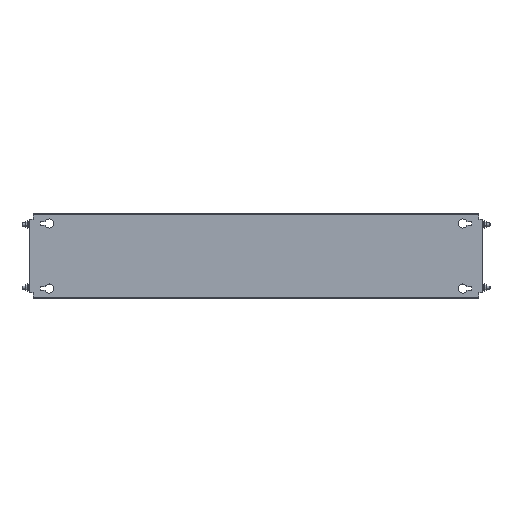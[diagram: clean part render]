
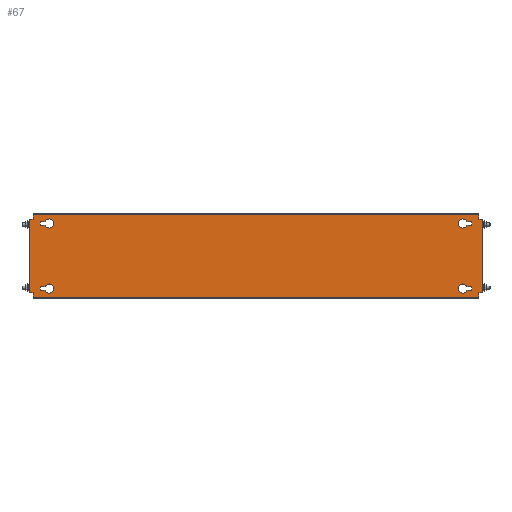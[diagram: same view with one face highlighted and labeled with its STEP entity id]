
A CAD part, top view. The second image highlights one B-rep face of the part: STEP entity #67.
In plain terms, the highlighted planar face has unit normal (0, 0, 1).
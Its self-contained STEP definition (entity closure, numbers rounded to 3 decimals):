
#67 = ADVANCED_FACE('',(#68,#103,#138,#300,#335),#370,.T.);
#68 = FACE_BOUND('',#69,.T.);
#69 = EDGE_LOOP('',(#70,#80,#88,#96));
#70 = ORIENTED_EDGE('',*,*,#71,.T.);
#71 = EDGE_CURVE('',#72,#74,#76,.T.);
#72 = VERTEX_POINT('',#73);
#73 = CARTESIAN_POINT('',(418.393,67.75,2.));
#74 = VERTEX_POINT('',#75);
#75 = CARTESIAN_POINT('',(428.,67.75,2.));
#76 = LINE('',#77,#78);
#77 = CARTESIAN_POINT('',(427.,67.75,2.));
#78 = VECTOR('',#79,1.);
#79 = DIRECTION('',(1.,0.,0.));
#80 = ORIENTED_EDGE('',*,*,#81,.T.);
#81 = EDGE_CURVE('',#74,#82,#84,.T.);
#82 = VERTEX_POINT('',#83);
#83 = CARTESIAN_POINT('',(428.,61.25,2.));
#84 = LINE('',#85,#86);
#85 = CARTESIAN_POINT('',(428.,67.75,2.));
#86 = VECTOR('',#87,1.);
#87 = DIRECTION('',(0.,-1.,0.));
#88 = ORIENTED_EDGE('',*,*,#89,.T.);
#89 = EDGE_CURVE('',#82,#90,#92,.T.);
#90 = VERTEX_POINT('',#91);
#91 = CARTESIAN_POINT('',(418.393,61.25,2.));
#92 = LINE('',#93,#94);
#93 = CARTESIAN_POINT('',(427.,61.25,2.));
#94 = VECTOR('',#95,1.);
#95 = DIRECTION('',(-1.,0.,0.));
#96 = ORIENTED_EDGE('',*,*,#97,.T.);
#97 = EDGE_CURVE('',#90,#72,#98,.T.);
#98 = CIRCLE('',#99,9.);
#99 = AXIS2_PLACEMENT_3D('',#100,#101,#102);
#100 = CARTESIAN_POINT('',(410.,64.5,2.));
#101 = DIRECTION('',(0.,0.,-1.));
#102 = DIRECTION('',(1.,0.,0.));
#103 = FACE_BOUND('',#104,.T.);
#104 = EDGE_LOOP('',(#105,#115,#123,#131));
#105 = ORIENTED_EDGE('',*,*,#106,.T.);
#106 = EDGE_CURVE('',#107,#109,#111,.T.);
#107 = VERTEX_POINT('',#108);
#108 = CARTESIAN_POINT('',(-418.393,-67.75,2.));
#109 = VERTEX_POINT('',#110);
#110 = CARTESIAN_POINT('',(-428.,-67.75,2.));
#111 = LINE('',#112,#113);
#112 = CARTESIAN_POINT('',(-427.,-67.75,2.));
#113 = VECTOR('',#114,1.);
#114 = DIRECTION('',(-1.,0.,0.));
#115 = ORIENTED_EDGE('',*,*,#116,.T.);
#116 = EDGE_CURVE('',#109,#117,#119,.T.);
#117 = VERTEX_POINT('',#118);
#118 = CARTESIAN_POINT('',(-428.,-61.25,2.));
#119 = LINE('',#120,#121);
#120 = CARTESIAN_POINT('',(-428.,-67.75,2.));
#121 = VECTOR('',#122,1.);
#122 = DIRECTION('',(0.,1.,0.));
#123 = ORIENTED_EDGE('',*,*,#124,.T.);
#124 = EDGE_CURVE('',#117,#125,#127,.T.);
#125 = VERTEX_POINT('',#126);
#126 = CARTESIAN_POINT('',(-418.393,-61.25,2.));
#127 = LINE('',#128,#129);
#128 = CARTESIAN_POINT('',(-427.,-61.25,2.));
#129 = VECTOR('',#130,1.);
#130 = DIRECTION('',(1.,0.,-0.));
#131 = ORIENTED_EDGE('',*,*,#132,.T.);
#132 = EDGE_CURVE('',#125,#107,#133,.T.);
#133 = CIRCLE('',#134,9.);
#134 = AXIS2_PLACEMENT_3D('',#135,#136,#137);
#135 = CARTESIAN_POINT('',(-410.,-64.5,2.));
#136 = DIRECTION('',(0.,0.,-1.));
#137 = DIRECTION('',(-1.,0.,0.));
#138 = FACE_BOUND('',#139,.T.);
#139 = EDGE_LOOP('',(#140,#150,#158,#166,#174,#182,#190,#198,#206,#214,
    #222,#230,#238,#246,#254,#262,#270,#278,#286,#294));
#140 = ORIENTED_EDGE('',*,*,#141,.F.);
#141 = EDGE_CURVE('',#142,#144,#146,.T.);
#142 = VERTEX_POINT('',#143);
#143 = CARTESIAN_POINT('',(-447.4,72.5,2.));
#144 = VERTEX_POINT('',#145);
#145 = CARTESIAN_POINT('',(-442.,72.5,2.));
#146 = LINE('',#147,#148);
#147 = CARTESIAN_POINT('',(-448.,72.5,2.));
#148 = VECTOR('',#149,1.);
#149 = DIRECTION('',(1.,0.,-0.));
#150 = ORIENTED_EDGE('',*,*,#151,.T.);
#151 = EDGE_CURVE('',#142,#152,#154,.T.);
#152 = VERTEX_POINT('',#153);
#153 = CARTESIAN_POINT('',(-450.,72.5,2.));
#154 = LINE('',#155,#156);
#155 = CARTESIAN_POINT('',(-447.4,72.5,2.));
#156 = VECTOR('',#157,1.);
#157 = DIRECTION('',(-1.,0.,0.));
#158 = ORIENTED_EDGE('',*,*,#159,.F.);
#159 = EDGE_CURVE('',#160,#152,#162,.T.);
#160 = VERTEX_POINT('',#161);
#161 = CARTESIAN_POINT('',(-450.,-72.5,2.));
#162 = LINE('',#163,#164);
#163 = CARTESIAN_POINT('',(-450.,-82.5,2.));
#164 = VECTOR('',#165,1.);
#165 = DIRECTION('',(-0.,1.,-0.));
#166 = ORIENTED_EDGE('',*,*,#167,.F.);
#167 = EDGE_CURVE('',#168,#160,#170,.T.);
#168 = VERTEX_POINT('',#169);
#169 = CARTESIAN_POINT('',(-447.4,-72.5,2.));
#170 = LINE('',#171,#172);
#171 = CARTESIAN_POINT('',(-442.,-72.5,2.));
#172 = VECTOR('',#173,1.);
#173 = DIRECTION('',(-1.,-0.,-0.));
#174 = ORIENTED_EDGE('',*,*,#175,.T.);
#175 = EDGE_CURVE('',#168,#176,#178,.T.);
#176 = VERTEX_POINT('',#177);
#177 = CARTESIAN_POINT('',(-442.,-72.5,2.));
#178 = LINE('',#179,#180);
#179 = CARTESIAN_POINT('',(-448.,-72.5,2.));
#180 = VECTOR('',#181,1.);
#181 = DIRECTION('',(1.,0.,-0.));
#182 = ORIENTED_EDGE('',*,*,#183,.T.);
#183 = EDGE_CURVE('',#176,#184,#186,.T.);
#184 = VERTEX_POINT('',#185);
#185 = CARTESIAN_POINT('',(-442.,-81.9,2.));
#186 = LINE('',#187,#188);
#187 = CARTESIAN_POINT('',(-442.,82.5,2.));
#188 = VECTOR('',#189,1.);
#189 = DIRECTION('',(0.,-1.,0.));
#190 = ORIENTED_EDGE('',*,*,#191,.T.);
#191 = EDGE_CURVE('',#184,#192,#194,.T.);
#192 = VERTEX_POINT('',#193);
#193 = CARTESIAN_POINT('',(-442.,-82.5,2.));
#194 = LINE('',#195,#196);
#195 = CARTESIAN_POINT('',(-442.,-81.9,2.));
#196 = VECTOR('',#197,1.);
#197 = DIRECTION('',(-0.,-1.,-0.));
#198 = ORIENTED_EDGE('',*,*,#199,.T.);
#199 = EDGE_CURVE('',#192,#200,#202,.T.);
#200 = VERTEX_POINT('',#201);
#201 = CARTESIAN_POINT('',(442.,-82.5,2.));
#202 = LINE('',#203,#204);
#203 = CARTESIAN_POINT('',(442.,-82.5,2.));
#204 = VECTOR('',#205,1.);
#205 = DIRECTION('',(1.,0.,0.));
#206 = ORIENTED_EDGE('',*,*,#207,.F.);
#207 = EDGE_CURVE('',#208,#200,#210,.T.);
#208 = VERTEX_POINT('',#209);
#209 = CARTESIAN_POINT('',(442.,-81.9,2.));
#210 = LINE('',#211,#212);
#211 = CARTESIAN_POINT('',(442.,-82.5,2.));
#212 = VECTOR('',#213,1.);
#213 = DIRECTION('',(0.,-1.,0.));
#214 = ORIENTED_EDGE('',*,*,#215,.T.);
#215 = EDGE_CURVE('',#208,#216,#218,.T.);
#216 = VERTEX_POINT('',#217);
#217 = CARTESIAN_POINT('',(442.,-72.5,2.));
#218 = LINE('',#219,#220);
#219 = CARTESIAN_POINT('',(442.,82.5,2.));
#220 = VECTOR('',#221,1.);
#221 = DIRECTION('',(-0.,1.,-0.));
#222 = ORIENTED_EDGE('',*,*,#223,.F.);
#223 = EDGE_CURVE('',#224,#216,#226,.T.);
#224 = VERTEX_POINT('',#225);
#225 = CARTESIAN_POINT('',(447.4,-72.5,2.));
#226 = LINE('',#227,#228);
#227 = CARTESIAN_POINT('',(448.,-72.5,2.));
#228 = VECTOR('',#229,1.);
#229 = DIRECTION('',(-1.,0.,-0.));
#230 = ORIENTED_EDGE('',*,*,#231,.T.);
#231 = EDGE_CURVE('',#224,#232,#234,.T.);
#232 = VERTEX_POINT('',#233);
#233 = CARTESIAN_POINT('',(450.,-72.5,2.));
#234 = LINE('',#235,#236);
#235 = CARTESIAN_POINT('',(447.4,-72.5,2.));
#236 = VECTOR('',#237,1.);
#237 = DIRECTION('',(1.,-0.,0.));
#238 = ORIENTED_EDGE('',*,*,#239,.F.);
#239 = EDGE_CURVE('',#240,#232,#242,.T.);
#240 = VERTEX_POINT('',#241);
#241 = CARTESIAN_POINT('',(450.,72.5,2.));
#242 = LINE('',#243,#244);
#243 = CARTESIAN_POINT('',(450.,-82.5,2.));
#244 = VECTOR('',#245,1.);
#245 = DIRECTION('',(-0.,-1.,0.));
#246 = ORIENTED_EDGE('',*,*,#247,.F.);
#247 = EDGE_CURVE('',#248,#240,#250,.T.);
#248 = VERTEX_POINT('',#249);
#249 = CARTESIAN_POINT('',(447.4,72.5,2.));
#250 = LINE('',#251,#252);
#251 = CARTESIAN_POINT('',(-442.,72.5,2.));
#252 = VECTOR('',#253,1.);
#253 = DIRECTION('',(1.,-0.,0.));
#254 = ORIENTED_EDGE('',*,*,#255,.T.);
#255 = EDGE_CURVE('',#248,#256,#258,.T.);
#256 = VERTEX_POINT('',#257);
#257 = CARTESIAN_POINT('',(442.,72.5,2.));
#258 = LINE('',#259,#260);
#259 = CARTESIAN_POINT('',(448.,72.5,2.));
#260 = VECTOR('',#261,1.);
#261 = DIRECTION('',(-1.,0.,-0.));
#262 = ORIENTED_EDGE('',*,*,#263,.T.);
#263 = EDGE_CURVE('',#256,#264,#266,.T.);
#264 = VERTEX_POINT('',#265);
#265 = CARTESIAN_POINT('',(442.,81.9,2.));
#266 = LINE('',#267,#268);
#267 = CARTESIAN_POINT('',(442.,82.5,2.));
#268 = VECTOR('',#269,1.);
#269 = DIRECTION('',(-0.,1.,-0.));
#270 = ORIENTED_EDGE('',*,*,#271,.T.);
#271 = EDGE_CURVE('',#264,#272,#274,.T.);
#272 = VERTEX_POINT('',#273);
#273 = CARTESIAN_POINT('',(442.,82.5,2.));
#274 = LINE('',#275,#276);
#275 = CARTESIAN_POINT('',(442.,81.9,2.));
#276 = VECTOR('',#277,1.);
#277 = DIRECTION('',(-0.,1.,-0.));
#278 = ORIENTED_EDGE('',*,*,#279,.T.);
#279 = EDGE_CURVE('',#272,#280,#282,.T.);
#280 = VERTEX_POINT('',#281);
#281 = CARTESIAN_POINT('',(-442.,82.5,2.));
#282 = LINE('',#283,#284);
#283 = CARTESIAN_POINT('',(-442.,82.5,2.));
#284 = VECTOR('',#285,1.);
#285 = DIRECTION('',(-1.,0.,0.));
#286 = ORIENTED_EDGE('',*,*,#287,.F.);
#287 = EDGE_CURVE('',#288,#280,#290,.T.);
#288 = VERTEX_POINT('',#289);
#289 = CARTESIAN_POINT('',(-442.,81.9,2.));
#290 = LINE('',#291,#292);
#291 = CARTESIAN_POINT('',(-442.,-82.5,2.));
#292 = VECTOR('',#293,1.);
#293 = DIRECTION('',(0.,1.,-0.));
#294 = ORIENTED_EDGE('',*,*,#295,.T.);
#295 = EDGE_CURVE('',#288,#144,#296,.T.);
#296 = LINE('',#297,#298);
#297 = CARTESIAN_POINT('',(-442.,82.5,2.));
#298 = VECTOR('',#299,1.);
#299 = DIRECTION('',(0.,-1.,0.));
#300 = FACE_BOUND('',#301,.T.);
#301 = EDGE_LOOP('',(#302,#312,#320,#328));
#302 = ORIENTED_EDGE('',*,*,#303,.F.);
#303 = EDGE_CURVE('',#304,#306,#308,.T.);
#304 = VERTEX_POINT('',#305);
#305 = CARTESIAN_POINT('',(428.,-61.25,2.));
#306 = VERTEX_POINT('',#307);
#307 = CARTESIAN_POINT('',(418.393,-61.25,2.));
#308 = LINE('',#309,#310);
#309 = CARTESIAN_POINT('',(418.393,-61.25,2.));
#310 = VECTOR('',#311,1.);
#311 = DIRECTION('',(-1.,0.,0.));
#312 = ORIENTED_EDGE('',*,*,#313,.F.);
#313 = EDGE_CURVE('',#314,#304,#316,.T.);
#314 = VERTEX_POINT('',#315);
#315 = CARTESIAN_POINT('',(428.,-67.75,2.));
#316 = LINE('',#317,#318);
#317 = CARTESIAN_POINT('',(428.,-61.25,2.));
#318 = VECTOR('',#319,1.);
#319 = DIRECTION('',(0.,1.,0.));
#320 = ORIENTED_EDGE('',*,*,#321,.F.);
#321 = EDGE_CURVE('',#322,#314,#324,.T.);
#322 = VERTEX_POINT('',#323);
#323 = CARTESIAN_POINT('',(418.393,-67.75,2.));
#324 = LINE('',#325,#326);
#325 = CARTESIAN_POINT('',(427.,-67.75,2.));
#326 = VECTOR('',#327,1.);
#327 = DIRECTION('',(1.,0.,0.));
#328 = ORIENTED_EDGE('',*,*,#329,.F.);
#329 = EDGE_CURVE('',#306,#322,#330,.T.);
#330 = CIRCLE('',#331,9.);
#331 = AXIS2_PLACEMENT_3D('',#332,#333,#334);
#332 = CARTESIAN_POINT('',(410.,-64.5,2.));
#333 = DIRECTION('',(0.,-0.,1.));
#334 = DIRECTION('',(1.,0.,0.));
#335 = FACE_BOUND('',#336,.T.);
#336 = EDGE_LOOP('',(#337,#347,#355,#363));
#337 = ORIENTED_EDGE('',*,*,#338,.F.);
#338 = EDGE_CURVE('',#339,#341,#343,.T.);
#339 = VERTEX_POINT('',#340);
#340 = CARTESIAN_POINT('',(-428.,61.25,2.));
#341 = VERTEX_POINT('',#342);
#342 = CARTESIAN_POINT('',(-418.393,61.25,2.));
#343 = LINE('',#344,#345);
#344 = CARTESIAN_POINT('',(-418.393,61.25,2.));
#345 = VECTOR('',#346,1.);
#346 = DIRECTION('',(1.,0.,0.));
#347 = ORIENTED_EDGE('',*,*,#348,.F.);
#348 = EDGE_CURVE('',#349,#339,#351,.T.);
#349 = VERTEX_POINT('',#350);
#350 = CARTESIAN_POINT('',(-428.,67.75,2.));
#351 = LINE('',#352,#353);
#352 = CARTESIAN_POINT('',(-428.,61.25,2.));
#353 = VECTOR('',#354,1.);
#354 = DIRECTION('',(0.,-1.,0.));
#355 = ORIENTED_EDGE('',*,*,#356,.F.);
#356 = EDGE_CURVE('',#357,#349,#359,.T.);
#357 = VERTEX_POINT('',#358);
#358 = CARTESIAN_POINT('',(-418.393,67.75,2.));
#359 = LINE('',#360,#361);
#360 = CARTESIAN_POINT('',(-427.,67.75,2.));
#361 = VECTOR('',#362,1.);
#362 = DIRECTION('',(-1.,0.,0.));
#363 = ORIENTED_EDGE('',*,*,#364,.F.);
#364 = EDGE_CURVE('',#341,#357,#365,.T.);
#365 = CIRCLE('',#366,9.);
#366 = AXIS2_PLACEMENT_3D('',#367,#368,#369);
#367 = CARTESIAN_POINT('',(-410.,64.5,2.));
#368 = DIRECTION('',(0.,-0.,1.));
#369 = DIRECTION('',(-1.,0.,0.));
#370 = PLANE('',#371);
#371 = AXIS2_PLACEMENT_3D('',#372,#373,#374);
#372 = CARTESIAN_POINT('',(-442.,-82.5,2.));
#373 = DIRECTION('',(-0.,0.,1.));
#374 = DIRECTION('',(1.,0.,0.));
